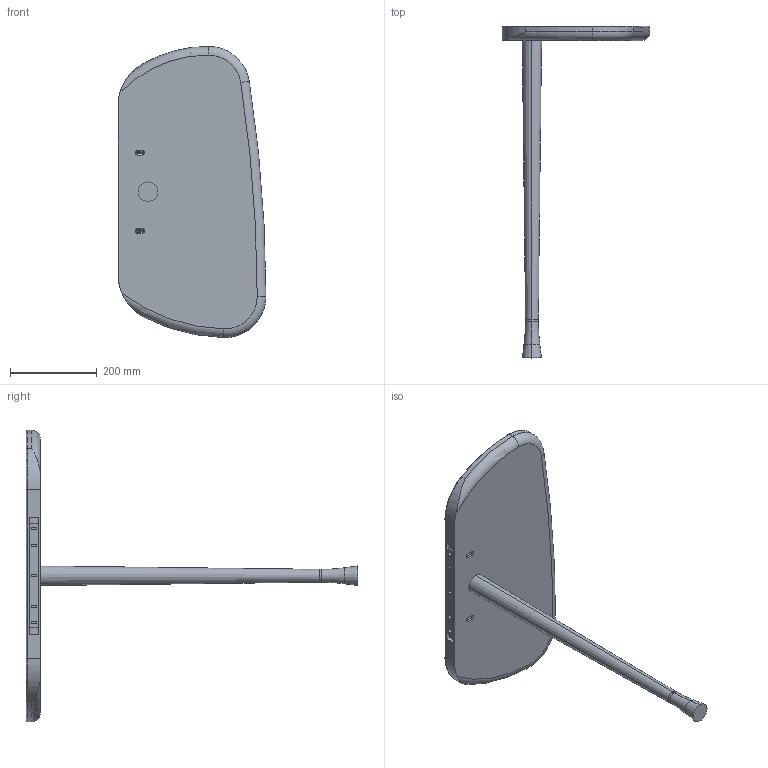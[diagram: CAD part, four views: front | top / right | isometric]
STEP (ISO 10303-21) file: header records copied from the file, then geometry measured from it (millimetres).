
FILE_DESCRIPTION (( 'STEP AP203' ), '1' );
FILE_NAME ('CONSOLA.STEP', '2017-05-05T06:52:20', ( 'Usuario' ), ( '' ), 'SwSTEP 2.0', 'SolidWorks 2016', '' );
FILE_SCHEMA (( 'CONFIG_CONTROL_DESIGN' ));
Length unit declared in the file: millimetre
Products named in the file (4): CONSOLA; 2_REPISA_NOGAL; 1_PALO_BASE; 3_ANCLAJE
Assembly tree (3 placements, depth 2):
  CONSOLA
    1_PALO_BASE
    2_REPISA_NOGAL
    3_ANCLAJE
Bounding box: 340 x 763 x 670 mm (x, y, z)
Volume: 6336783.3 mm3; surface area: 586314.2 mm2
Topology: 3 solids, 3 shells, 133 faces, 329 edges, 206 vertices
Faces by surface type: cylinder 53, plane 42, torus 26, cone 12
Entity records: 4810 total; most frequent: CARTESIAN_POINT 1117, DIRECTION 743, ORIENTED_EDGE 658, EDGE_CURVE 329, AXIS2_PLACEMENT_3D 297, VERTEX_POINT 206, CIRCLE 158, EDGE_LOOP 155
